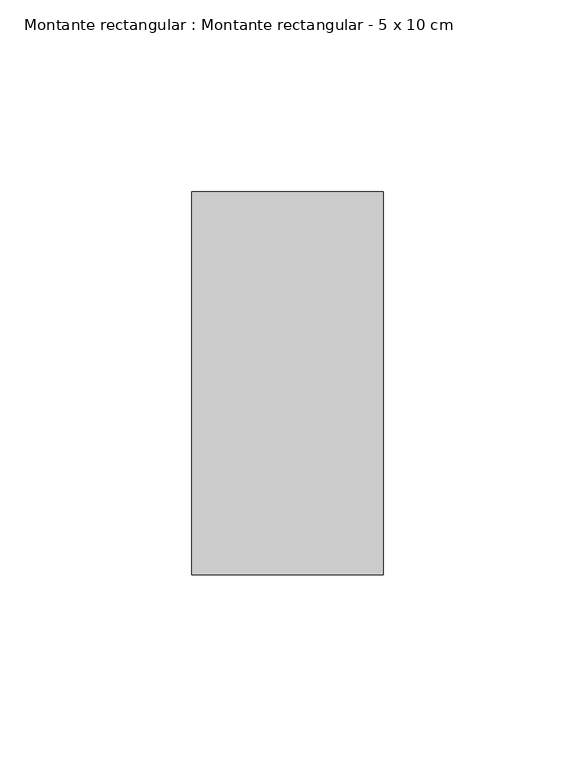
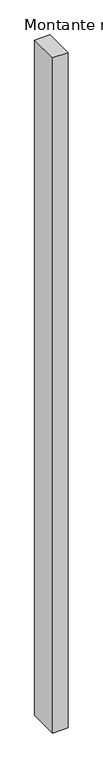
"""IFC4 building model written with IfcOpenShell, lengths in millimetres: member geometry, Montante rectangular : Montante rectangular - 5 x 10 cm."""

from ifc_helpers import new_model, si_unit, frame, origin, place, context, project, spatial, polyline, outline, extrude, source, transform, mapped, element, save


def montante_rectangular_montante_rectangular_5_x_10_cm_af4c0378(model_context):
    return source(origin(), model_context, "Body", "SweptSolid", [
        extrude(outline(polyline([(25.0, 50.0), (25.0, -50.0), (-25.0, -50.0), (-25.0, 50.0), (25.0, 50.0)])), frame((0.0, 0.0, -2300.0), z_axis=(0.0, 0.0, 1.0), x_axis=(1.0, 0.0, 0.0)), (0.0, 0.0, 1.0), 2300.0),
    ])


if __name__ == "__main__":
    model = new_model("IFC4")
    model_context = context("Model", 3, world=origin())
    ifc_project = project(units=[si_unit("LENGTHUNIT", "METRE", prefix="MILLI")], contexts=[model_context])
    site = spatial("IfcSite", under=ifc_project)
    building = spatial("IfcBuilding", under=site)
    placement = place(None, origin())
    montante_rectangular_montante_rectangular_5_x_10_cm_shape = montante_rectangular_montante_rectangular_5_x_10_cm_af4c0378(model_context)
    element("IfcMember", 1, ObjectType="Montante rectangular : Montante rectangular - 5 x 10 cm", at=placement, inside=building, context=model_context, shape_type="MappedRepresentation", body=[
        mapped(montante_rectangular_montante_rectangular_5_x_10_cm_shape, transform((0.0, 0.0, 0.0), x_axis=(1.0, 0.0, 0.0), y_axis=(0.0, 1.0, 0.0), z_axis=(0.0, 0.0, 1.0))),
    ])
    save(model, "model.ifc")
